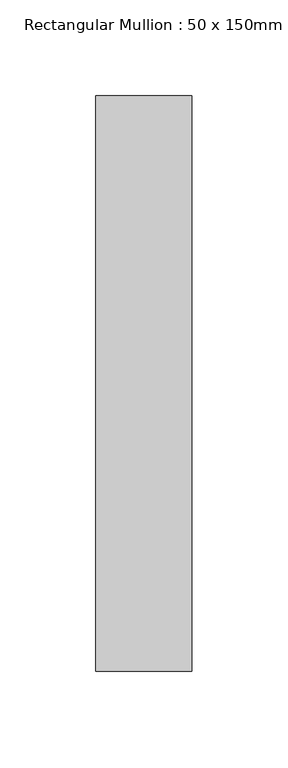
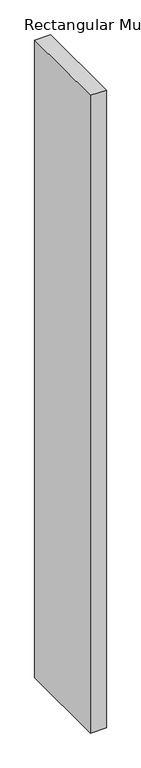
"""IFC4 building model written with IfcOpenShell, lengths in millimetres: member geometry, Rectangular Mullion : 50 x 150mm."""

from ifc_helpers import new_model, si_unit, frame, origin, place, context, project, spatial, polyline, outline, extrude, source, transform, mapped, element, save


def rectangular_mullion_50_x_150mm_924c202d(model_context):
    return source(origin(), model_context, "Body", "SweptSolid", [
        extrude(outline(polyline([(25.0, 125.0), (25.0, -175.0), (-25.0, -175.0), (-25.0, 125.0), (25.0, 125.0)])), frame((0.0, 0.0, -2100.0), z_axis=(0.0, 0.0, 1.0), x_axis=(1.0, 0.0, 0.0)), (0.0, 0.0, 1.0), 2100.0),
    ])


if __name__ == "__main__":
    model = new_model("IFC4")
    model_context = context("Model", 3, world=origin())
    ifc_project = project(units=[si_unit("LENGTHUNIT", "METRE", prefix="MILLI")], contexts=[model_context])
    site = spatial("IfcSite", under=ifc_project)
    building = spatial("IfcBuilding", under=site)
    placement = place(None, origin())
    rectangular_mullion_50_x_150mm_shape = rectangular_mullion_50_x_150mm_924c202d(model_context)
    element("IfcMember", 1, ObjectType="Rectangular Mullion : 50 x 150mm", at=placement, inside=building, context=model_context, shape_type="MappedRepresentation", body=[
        mapped(rectangular_mullion_50_x_150mm_shape, transform((0.0, 0.0, 0.0), x_axis=(1.0, 0.0, 0.0), y_axis=(0.0, 1.0, 0.0), z_axis=(0.0, 0.0, 1.0))),
    ])
    save(model, "model.ifc")
